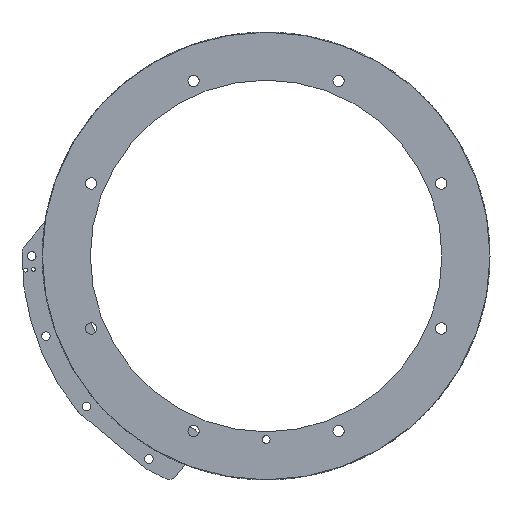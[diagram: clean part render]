
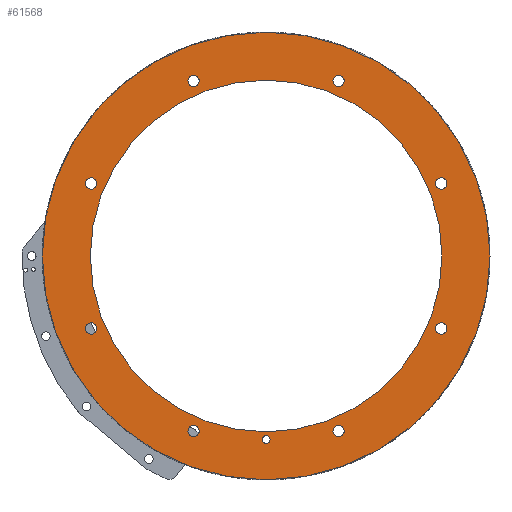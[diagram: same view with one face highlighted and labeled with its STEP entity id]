
A CAD part, top view. The second image highlights one B-rep face of the part: STEP entity #61568.
In plain terms, the highlighted planar face has unit normal (0, 0, 1) as drawn and (0, -1, 0) by its records, which use the part's own axes.
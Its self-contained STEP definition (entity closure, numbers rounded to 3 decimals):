
#56209=CARTESIAN_POINT('',(0.,0.,0.));
#56210=DIRECTION('',(0.,1.,0.));
#56211=DIRECTION('',(1.,0.,0.));
#56212=AXIS2_PLACEMENT_3D('',#56209,#56210,#56211);
#56214=CARTESIAN_POINT('',(0.,0.,0.));
#56215=DIRECTION('',(0.,1.,0.));
#56216=DIRECTION('',(-1.,0.,0.));
#56217=AXIS2_PLACEMENT_3D('',#56214,#56215,#56216);
#56219=CARTESIAN_POINT('',(0.,0.,0.));
#56220=DIRECTION('',(0.,-1.,0.));
#56221=DIRECTION('',(1.,0.,0.));
#56222=AXIS2_PLACEMENT_3D('',#56219,#56220,#56221);
#56224=CARTESIAN_POINT('',(0.,0.,0.));
#56225=DIRECTION('',(0.,-1.,0.));
#56226=DIRECTION('',(-1.,0.,0.));
#56227=AXIS2_PLACEMENT_3D('',#56224,#56225,#56226);
#56229=CARTESIAN_POINT('',(-44.808,0.,-18.56));
#56230=DIRECTION('',(0.,1.,0.));
#56231=DIRECTION('',(1.,0.,0.));
#56232=AXIS2_PLACEMENT_3D('',#56229,#56230,#56231);
#56234=CARTESIAN_POINT('',(-44.808,0.,-18.56));
#56235=DIRECTION('',(0.,1.,0.));
#56236=DIRECTION('',(-1.,0.,0.));
#56237=AXIS2_PLACEMENT_3D('',#56234,#56235,#56236);
#56239=CARTESIAN_POINT('',(18.56,0.,-44.808));
#56240=DIRECTION('',(0.,1.,0.));
#56241=DIRECTION('',(1.,0.,0.));
#56242=AXIS2_PLACEMENT_3D('',#56239,#56240,#56241);
#56244=CARTESIAN_POINT('',(18.56,0.,-44.808));
#56245=DIRECTION('',(0.,1.,0.));
#56246=DIRECTION('',(-1.,0.,0.));
#56247=AXIS2_PLACEMENT_3D('',#56244,#56245,#56246);
#56249=CARTESIAN_POINT('',(44.808,0.,18.56));
#56250=DIRECTION('',(0.,1.,0.));
#56251=DIRECTION('',(1.,0.,0.));
#56252=AXIS2_PLACEMENT_3D('',#56249,#56250,#56251);
#56254=CARTESIAN_POINT('',(44.808,0.,18.56));
#56255=DIRECTION('',(0.,1.,0.));
#56256=DIRECTION('',(-1.,0.,0.));
#56257=AXIS2_PLACEMENT_3D('',#56254,#56255,#56256);
#56259=CARTESIAN_POINT('',(-18.56,0.,44.808));
#56260=DIRECTION('',(0.,1.,0.));
#56261=DIRECTION('',(1.,0.,0.));
#56262=AXIS2_PLACEMENT_3D('',#56259,#56260,#56261);
#56264=CARTESIAN_POINT('',(-18.56,0.,44.808));
#56265=DIRECTION('',(0.,1.,0.));
#56266=DIRECTION('',(-1.,0.,0.));
#56267=AXIS2_PLACEMENT_3D('',#56264,#56265,#56266);
#56269=CARTESIAN_POINT('',(-18.56,0.,-44.808));
#56270=DIRECTION('',(0.,1.,0.));
#56271=DIRECTION('',(1.,0.,0.));
#56272=AXIS2_PLACEMENT_3D('',#56269,#56270,#56271);
#56274=CARTESIAN_POINT('',(-18.56,0.,-44.808));
#56275=DIRECTION('',(0.,1.,0.));
#56276=DIRECTION('',(-1.,0.,0.));
#56277=AXIS2_PLACEMENT_3D('',#56274,#56275,#56276);
#56279=CARTESIAN_POINT('',(44.808,0.,-18.56));
#56280=DIRECTION('',(0.,1.,0.));
#56281=DIRECTION('',(1.,0.,0.));
#56282=AXIS2_PLACEMENT_3D('',#56279,#56280,#56281);
#56284=CARTESIAN_POINT('',(44.808,0.,-18.56));
#56285=DIRECTION('',(0.,1.,0.));
#56286=DIRECTION('',(-1.,0.,0.));
#56287=AXIS2_PLACEMENT_3D('',#56284,#56285,#56286);
#56289=CARTESIAN_POINT('',(18.56,0.,44.808));
#56290=DIRECTION('',(0.,1.,0.));
#56291=DIRECTION('',(1.,0.,0.));
#56292=AXIS2_PLACEMENT_3D('',#56289,#56290,#56291);
#56294=CARTESIAN_POINT('',(18.56,0.,44.808));
#56295=DIRECTION('',(0.,1.,0.));
#56296=DIRECTION('',(-1.,0.,0.));
#56297=AXIS2_PLACEMENT_3D('',#56294,#56295,#56296);
#56299=CARTESIAN_POINT('',(-44.808,0.,18.56));
#56300=DIRECTION('',(0.,1.,0.));
#56301=DIRECTION('',(1.,0.,0.));
#56302=AXIS2_PLACEMENT_3D('',#56299,#56300,#56301);
#56304=CARTESIAN_POINT('',(-44.808,0.,18.56));
#56305=DIRECTION('',(0.,1.,0.));
#56306=DIRECTION('',(-1.,0.,0.));
#56307=AXIS2_PLACEMENT_3D('',#56304,#56305,#56306);
#56309=CARTESIAN_POINT('',(0.,0.,-47.));
#56310=DIRECTION('',(0.,1.,0.));
#56311=DIRECTION('',(0.,0.,1.));
#56312=AXIS2_PLACEMENT_3D('',#56309,#56310,#56311);
#56314=CARTESIAN_POINT('',(0.,0.,-47.));
#56315=DIRECTION('',(0.,1.,0.));
#56316=DIRECTION('',(0.,0.,-1.));
#56317=AXIS2_PLACEMENT_3D('',#56314,#56315,#56316);
#60281=CARTESIAN_POINT('',(57.3,0.,0.));
#60282=CARTESIAN_POINT('',(-57.3,0.,0.));
#60283=VERTEX_POINT('',#60281);
#60284=VERTEX_POINT('',#60282);
#60285=CARTESIAN_POINT('',(45.005,0.,0.));
#60286=CARTESIAN_POINT('',(-45.005,0.,0.));
#60287=VERTEX_POINT('',#60285);
#60288=VERTEX_POINT('',#60286);
#60807=CARTESIAN_POINT('',(-43.358,0.,-18.56));
#60808=CARTESIAN_POINT('',(-46.258,0.,-18.56));
#60809=VERTEX_POINT('',#60807);
#60810=VERTEX_POINT('',#60808);
#60811=CARTESIAN_POINT('',(20.01,0.,-44.808));
#60812=CARTESIAN_POINT('',(17.11,0.,-44.808));
#60813=VERTEX_POINT('',#60811);
#60814=VERTEX_POINT('',#60812);
#60815=CARTESIAN_POINT('',(46.258,0.,18.56));
#60816=CARTESIAN_POINT('',(43.358,0.,18.56));
#60817=VERTEX_POINT('',#60815);
#60818=VERTEX_POINT('',#60816);
#60819=CARTESIAN_POINT('',(-17.11,0.,44.808));
#60820=CARTESIAN_POINT('',(-20.01,0.,44.808));
#60821=VERTEX_POINT('',#60819);
#60822=VERTEX_POINT('',#60820);
#61361=CARTESIAN_POINT('',(-17.11,0.,-44.808));
#61362=CARTESIAN_POINT('',(-20.01,0.,-44.808));
#61363=VERTEX_POINT('',#61361);
#61364=VERTEX_POINT('',#61362);
#61365=CARTESIAN_POINT('',(46.258,0.,-18.56));
#61366=CARTESIAN_POINT('',(43.358,0.,-18.56));
#61367=VERTEX_POINT('',#61365);
#61368=VERTEX_POINT('',#61366);
#61369=CARTESIAN_POINT('',(20.01,0.,44.808));
#61370=CARTESIAN_POINT('',(17.11,0.,44.808));
#61371=VERTEX_POINT('',#61369);
#61372=VERTEX_POINT('',#61370);
#61373=CARTESIAN_POINT('',(-43.358,0.,18.56));
#61374=CARTESIAN_POINT('',(-46.258,0.,18.56));
#61375=VERTEX_POINT('',#61373);
#61376=VERTEX_POINT('',#61374);
#61401=CARTESIAN_POINT('',(0.,0.,-46.));
#61402=CARTESIAN_POINT('',(0.,0.,-48.));
#61403=VERTEX_POINT('',#61401);
#61404=VERTEX_POINT('',#61402);
#61497=CARTESIAN_POINT('',(0.,0.,0.));
#61498=DIRECTION('',(0.,1.,0.));
#61499=DIRECTION('',(1.,0.,0.));
#61500=AXIS2_PLACEMENT_3D('',#61497,#61498,#61499);
#61501=PLANE('',#61500);
#61503=ORIENTED_EDGE('',*,*,#61502,.T.);
#61505=ORIENTED_EDGE('',*,*,#61504,.T.);
#61506=EDGE_LOOP('',(#61503,#61505));
#61507=FACE_OUTER_BOUND('',#61506,.F.);
#61509=ORIENTED_EDGE('',*,*,#61508,.T.);
#61511=ORIENTED_EDGE('',*,*,#61510,.T.);
#61512=EDGE_LOOP('',(#61509,#61511));
#61513=FACE_BOUND('',#61512,.F.);
#61515=ORIENTED_EDGE('',*,*,#61514,.F.);
#61517=ORIENTED_EDGE('',*,*,#61516,.F.);
#61518=EDGE_LOOP('',(#61515,#61517));
#61519=FACE_BOUND('',#61518,.F.);
#61521=ORIENTED_EDGE('',*,*,#61520,.F.);
#61523=ORIENTED_EDGE('',*,*,#61522,.F.);
#61524=EDGE_LOOP('',(#61521,#61523));
#61525=FACE_BOUND('',#61524,.F.);
#61527=ORIENTED_EDGE('',*,*,#61526,.F.);
#61529=ORIENTED_EDGE('',*,*,#61528,.F.);
#61530=EDGE_LOOP('',(#61527,#61529));
#61531=FACE_BOUND('',#61530,.F.);
#61533=ORIENTED_EDGE('',*,*,#61532,.F.);
#61535=ORIENTED_EDGE('',*,*,#61534,.F.);
#61536=EDGE_LOOP('',(#61533,#61535));
#61537=FACE_BOUND('',#61536,.F.);
#61539=ORIENTED_EDGE('',*,*,#61538,.F.);
#61541=ORIENTED_EDGE('',*,*,#61540,.F.);
#61542=EDGE_LOOP('',(#61539,#61541));
#61543=FACE_BOUND('',#61542,.F.);
#61545=ORIENTED_EDGE('',*,*,#61544,.F.);
#61547=ORIENTED_EDGE('',*,*,#61546,.F.);
#61548=EDGE_LOOP('',(#61545,#61547));
#61549=FACE_BOUND('',#61548,.F.);
#61551=ORIENTED_EDGE('',*,*,#61550,.F.);
#61553=ORIENTED_EDGE('',*,*,#61552,.F.);
#61554=EDGE_LOOP('',(#61551,#61553));
#61555=FACE_BOUND('',#61554,.F.);
#61557=ORIENTED_EDGE('',*,*,#61556,.F.);
#61559=ORIENTED_EDGE('',*,*,#61558,.F.);
#61560=EDGE_LOOP('',(#61557,#61559));
#61561=FACE_BOUND('',#61560,.F.);
#61563=ORIENTED_EDGE('',*,*,#61562,.F.);
#61565=ORIENTED_EDGE('',*,*,#61564,.F.);
#61566=EDGE_LOOP('',(#61563,#61565));
#61567=FACE_BOUND('',#61566,.F.);
#61568=ADVANCED_FACE('',(#61507,#61513,#61519,#61525,#61531,#61537,#61543,
#61549,#61555,#61561,#61567),#61501,.F.);
#56213=CIRCLE('',#56212,57.3);
#56218=CIRCLE('',#56217,57.3);
#56223=CIRCLE('',#56222,45.005);
#56228=CIRCLE('',#56227,45.005);
#56233=CIRCLE('',#56232,1.45);
#56238=CIRCLE('',#56237,1.45);
#56243=CIRCLE('',#56242,1.45);
#56248=CIRCLE('',#56247,1.45);
#56253=CIRCLE('',#56252,1.45);
#56258=CIRCLE('',#56257,1.45);
#56263=CIRCLE('',#56262,1.45);
#56268=CIRCLE('',#56267,1.45);
#56273=CIRCLE('',#56272,1.45);
#56278=CIRCLE('',#56277,1.45);
#56283=CIRCLE('',#56282,1.45);
#56288=CIRCLE('',#56287,1.45);
#56293=CIRCLE('',#56292,1.45);
#56298=CIRCLE('',#56297,1.45);
#56303=CIRCLE('',#56302,1.45);
#56308=CIRCLE('',#56307,1.45);
#56313=CIRCLE('',#56312,1.);
#56318=CIRCLE('',#56317,1.);
#61502=EDGE_CURVE('',#60283,#60284,#56213,.T.);
#61504=EDGE_CURVE('',#60284,#60283,#56218,.T.);
#61508=EDGE_CURVE('',#60287,#60288,#56223,.T.);
#61510=EDGE_CURVE('',#60288,#60287,#56228,.T.);
#61514=EDGE_CURVE('',#60809,#60810,#56233,.T.);
#61516=EDGE_CURVE('',#60810,#60809,#56238,.T.);
#61520=EDGE_CURVE('',#60813,#60814,#56243,.T.);
#61522=EDGE_CURVE('',#60814,#60813,#56248,.T.);
#61526=EDGE_CURVE('',#60817,#60818,#56253,.T.);
#61528=EDGE_CURVE('',#60818,#60817,#56258,.T.);
#61532=EDGE_CURVE('',#60821,#60822,#56263,.T.);
#61534=EDGE_CURVE('',#60822,#60821,#56268,.T.);
#61538=EDGE_CURVE('',#61363,#61364,#56273,.T.);
#61540=EDGE_CURVE('',#61364,#61363,#56278,.T.);
#61544=EDGE_CURVE('',#61367,#61368,#56283,.T.);
#61546=EDGE_CURVE('',#61368,#61367,#56288,.T.);
#61550=EDGE_CURVE('',#61371,#61372,#56293,.T.);
#61552=EDGE_CURVE('',#61372,#61371,#56298,.T.);
#61556=EDGE_CURVE('',#61375,#61376,#56303,.T.);
#61558=EDGE_CURVE('',#61376,#61375,#56308,.T.);
#61562=EDGE_CURVE('',#61403,#61404,#56313,.T.);
#61564=EDGE_CURVE('',#61404,#61403,#56318,.T.);
